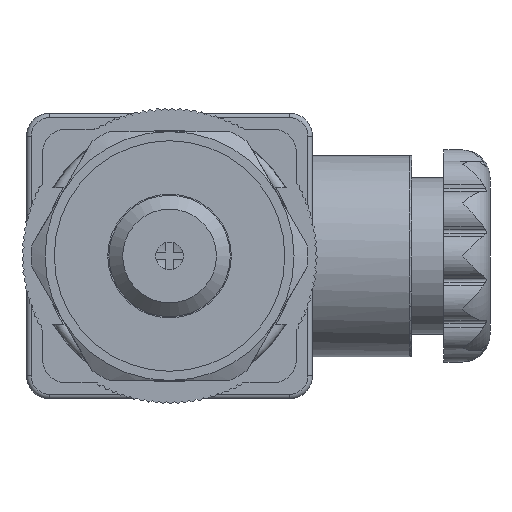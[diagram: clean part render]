
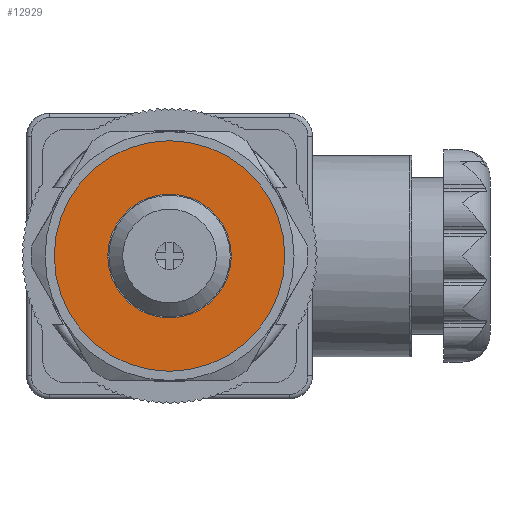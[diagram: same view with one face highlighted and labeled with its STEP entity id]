
A CAD part, front view. The second image highlights one B-rep face of the part: STEP entity #12929.
In plain terms, the highlighted planar face has unit normal (0, -1, 0).
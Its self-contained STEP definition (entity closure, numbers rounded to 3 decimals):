
#413 = DIRECTION ( 'NONE',  ( 0., 1., 0. ) ) ;
#1394 = EDGE_CURVE ( 'NONE', #7572, #7572, #3005, .T. ) ;
#1749 = FACE_BOUND ( 'NONE', #28915, .T. ) ;
#3005 = CIRCLE ( 'NONE', #22933, 12.5 ) ;
#7572 = VERTEX_POINT ( 'NONE', #15610 ) ;
#10442 = AXIS2_PLACEMENT_3D ( 'NONE', #27802, #413, #27633 ) ;
#12261 = ORIENTED_EDGE ( 'NONE', *, *, #1394, .F. ) ;
#12929 = ADVANCED_FACE ( 'NONE', ( #1749, #25629 ), #23580, .F. ) ;
#15610 = CARTESIAN_POINT ( 'NONE',  ( -12.5, 0., 0. ) ) ;
#15990 = CARTESIAN_POINT ( 'NONE',  ( 0., 0., 0. ) ) ;
#18201 = EDGE_CURVE ( 'NONE', #18274, #18274, #25132, .T. ) ;
#18274 = VERTEX_POINT ( 'NONE', #25433 ) ;
#19034 = DIRECTION ( 'NONE',  ( -1., 0., 0. ) ) ;
#21391 = DIRECTION ( 'NONE',  ( 0., 1., 0. ) ) ;
#21473 = CARTESIAN_POINT ( 'NONE',  ( -16.578, 0., 0. ) ) ;
#22933 = AXIS2_PLACEMENT_3D ( 'NONE', #15990, #21391, #28917 ) ;
#23580 = PLANE ( 'NONE',  #23856 ) ;
#23856 = AXIS2_PLACEMENT_3D ( 'NONE', #21473, #24238, #19034 ) ;
#24238 = DIRECTION ( 'NONE',  ( 0., 1., 0. ) ) ;
#25132 = CIRCLE ( 'NONE', #10442, 6.7 ) ;
#25433 = CARTESIAN_POINT ( 'NONE',  ( -6.7, 0., 0. ) ) ;
#25629 = FACE_OUTER_BOUND ( 'NONE', #31956, .T. ) ;
#27633 = DIRECTION ( 'NONE',  ( -1., 0., 0. ) ) ;
#27802 = CARTESIAN_POINT ( 'NONE',  ( 0., 0., 0. ) ) ;
#28915 = EDGE_LOOP ( 'NONE', ( #31960 ) ) ;
#28917 = DIRECTION ( 'NONE',  ( -1., 0., 0. ) ) ;
#31956 = EDGE_LOOP ( 'NONE', ( #12261 ) ) ;
#31960 = ORIENTED_EDGE ( 'NONE', *, *, #18201, .T. ) ;
